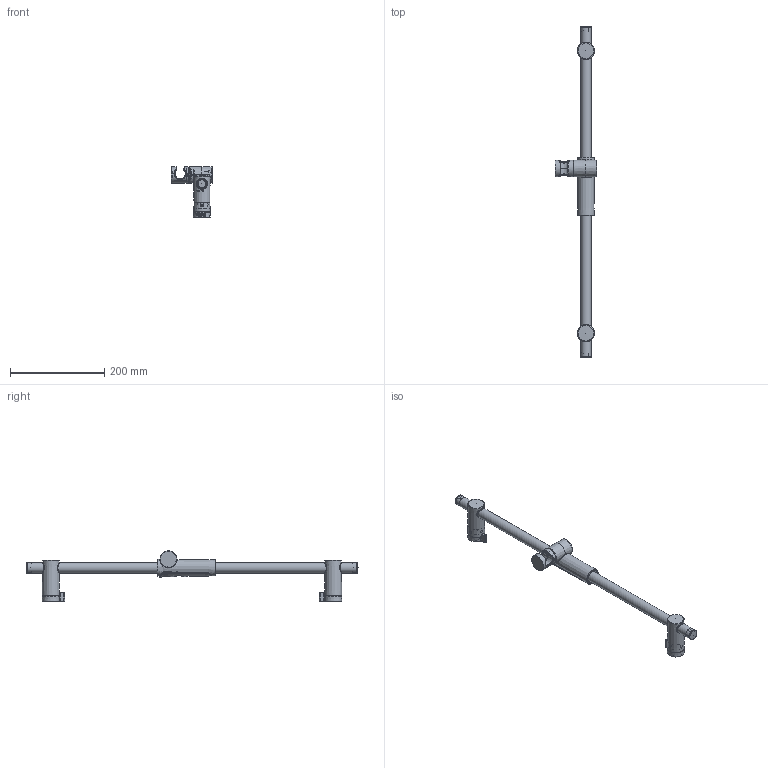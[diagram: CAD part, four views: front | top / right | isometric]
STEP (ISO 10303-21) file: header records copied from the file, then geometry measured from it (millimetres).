
FILE_DESCRIPTION(/* description */ (''),/* implementation_level */ '2;1');
FILE_NAME(/* name */ 'c:\worker\convert-fusion-r09\tmp\job-1\6\output\files\7a92717e-21b5-4db9-b2e5-9e3f6f016ef9\b2d7c227-65ed-4365-99d6-181b4494f11b.zip.stp',/* time_stamp */ '2019-12-14T15:48:31+00:00',/* author */ (''),/* organization */ (''),/* preprocessor_version */ 'ST-DEVELOPER v18',/* originating_system */ 'Autodesk Translation Framework v8.12.0.6',/* authorisation */ '');
FILE_SCHEMA (('AUTOMOTIVE_DESIGN { 1 0 10303 214 3 1 1 }'));
Length unit declared in the file: millimetre
Products named in the file (1): !DR11
Bounding box: 89.25 x 705.6 x 107.05 mm (x, y, z)
Volume: 198483.1 mm3; surface area: 256902.3 mm2
Topology: 30 solids, 30 shells, 4462 faces, 11426 edges, 7210 vertices
Faces by surface type: plane 1858, cylinder 868, bspline 690, cone 471, torus 407, sphere 168
Full cylindrical faces by diameter (mm): 2.5 x1, 3 x2, 3.2 x1, 3.5 x1, 4.2 x13, 4.4 x2, 5.1 x1, 6.5 x1, 10.2 x1, 10.3 x2, 12.8 x2, 13.1 x1, 13.6 x2, 14.6 x1, 14.75 x2, 15 x1, 17 x4, 20.3 x2, 20.8 x1, 21 x1, 22 x3, 22.2 x2, 22.3 x1, 22.4 x4, 22.5 x1, 23.2 x4, 27.6 x2, 28 x1, 28.9 x1, 29 x1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
Entity records: 237021 total; most frequent: CARTESIAN_POINT 132677, ORIENTED_EDGE 22818, DIRECTION 20781, EDGE_CURVE 11409, AXIS2_PLACEMENT_3D 7855, VERTEX_POINT 7210, LINE 5071, VECTOR 5071
